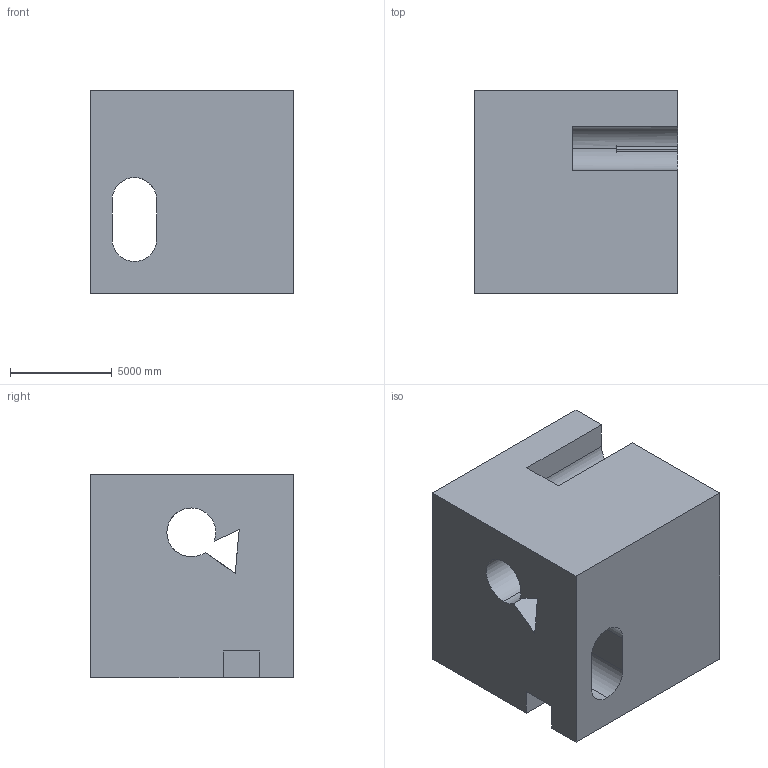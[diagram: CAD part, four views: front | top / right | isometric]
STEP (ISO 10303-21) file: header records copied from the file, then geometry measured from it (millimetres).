
FILE_DESCRIPTION (( 'STEP AP203' ), '1' );
FILE_NAME ('518.STEP', '2022-07-29T11:37:07', ( 'user' ), ( '' ), 'SwSTEP 2.0', 'SolidWorks 2021', '' );
FILE_SCHEMA (( 'CONFIG_CONTROL_DESIGN' ));
Length unit declared in the file: centimetre
Products named in the file (1): 518
Bounding box: 10000 x 10000 x 10000 mm (x, y, z)
Volume: 802559961482.4 mm3; surface area: 858704477.1 mm2
Topology: 1 solids, 1 shells, 33 faces, 96 edges, 64 vertices
Faces by surface type: plane 20, cylinder 13
Entity records: 1189 total; most frequent: CARTESIAN_POINT 200, DIRECTION 192, ORIENTED_EDGE 192, EDGE_CURVE 96, VECTOR 64, AXIS2_PLACEMENT_3D 64, LINE 64, VERTEX_POINT 64
